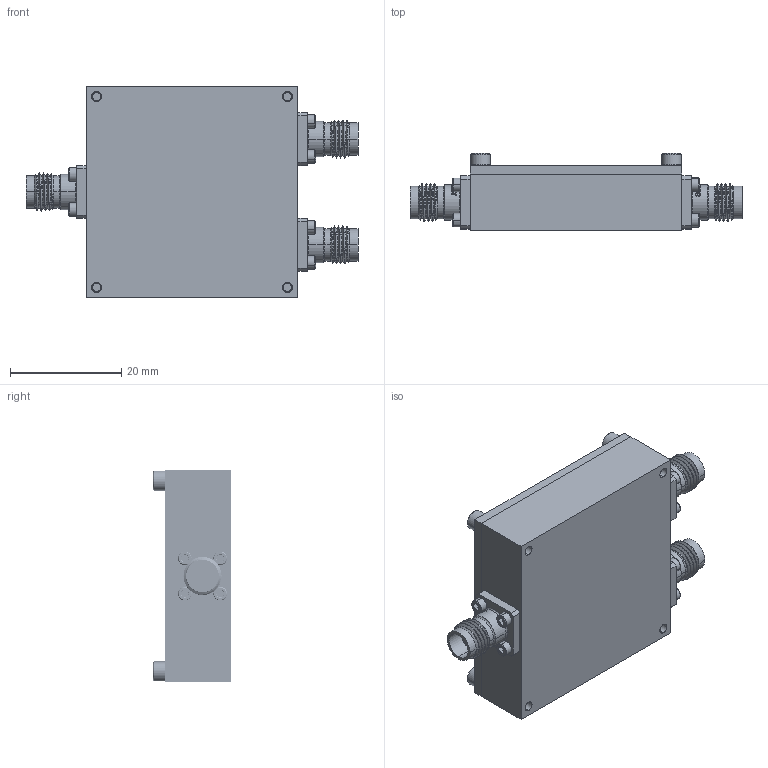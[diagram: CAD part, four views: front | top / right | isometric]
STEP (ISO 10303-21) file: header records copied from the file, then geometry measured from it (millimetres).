
FILE_DESCRIPTION (( 'STEP AP214' ), '1' );
FILE_NAME ('HL9405-JJJ.STEP', '2023-03-04T23:01:06', ( '' ), ( '' ), 'SwSTEP 2.0', 'SolidWorks 2023', '' );
FILE_SCHEMA (( 'AUTOMOTIVE_DESIGN' ));
Length unit declared in the file: millimetre
Products named in the file (6): 2.40mm J 4H .375SQ; 2-56 x 3-16 92196A076_18-8 Stainless Steel Socket Head Screw_92196A076; 100118; 100006; HL9405-JJJ; 0-80x1-8_Socket Head Cap Screw_92196A052_18-8 Stainless Steel Socket Head Screw_92196A052
Assembly tree (21 placements, depth 2):
  HL9405-JJJ
    100118
    100006
    2.40mm J 4H .375SQ  x3
    0-80x1-8_Socket Head Cap Screw_92196A052_18-8 Stainless Steel Socket Head Screw_92196A052  x12
    2-56 x 3-16 92196A076_18-8 Stainless Steel Socket Head Screw_92196A076  x4
Bounding box: 59.69 x 13.94 x 38.1 mm (x, y, z)
Volume: 11703.5 mm3; surface area: 11352.2 mm2
Topology: 21 solids, 21 shells, 1357 faces, 3360 edges, 2108 vertices
Faces by surface type: cylinder 518, plane 348, cone 315, bspline 126, torus 50
Entity records: 18520 total; most frequent: CARTESIAN_POINT 8514, ORIENTED_EDGE 1778, DIRECTION 1485, EDGE_CURVE 889, AXIS2_PLACEMENT_3D 604, VERTEX_POINT 564, EDGE_LOOP 423, ADVANCED_FACE 358
